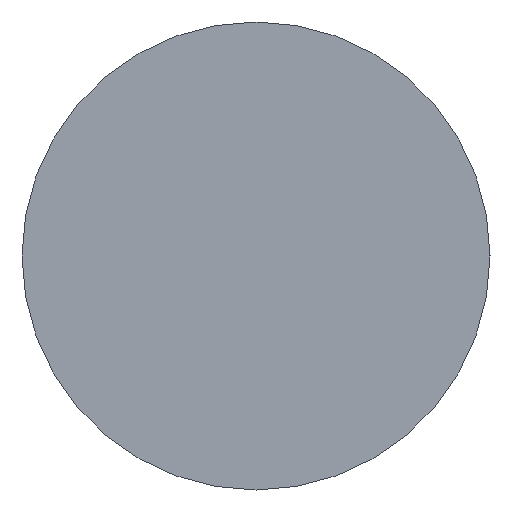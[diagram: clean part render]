
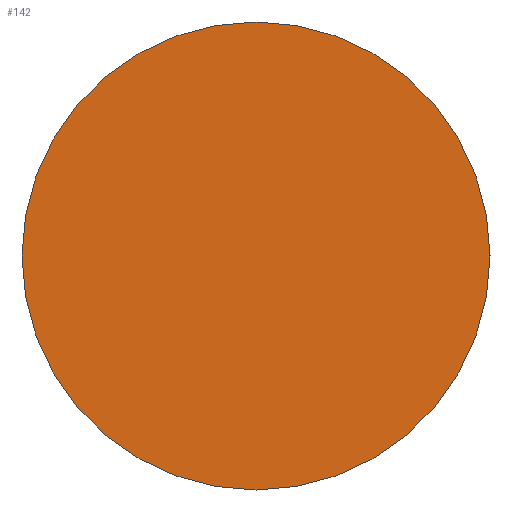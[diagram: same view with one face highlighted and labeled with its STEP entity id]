
A CAD part, left-side view. The second image highlights one B-rep face of the part: STEP entity #142.
In plain terms, the highlighted planar face has unit normal (-1, 0, 0).
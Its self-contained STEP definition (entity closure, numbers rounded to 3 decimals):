
#2 = EDGE_CURVE ( 'NONE', #179, #47, #100, .T. ) ;
#5 = ORIENTED_EDGE ( 'NONE', *, *, #186, .F. ) ;
#18 = CARTESIAN_POINT ( 'NONE',  ( 0., 0., 0. ) ) ;
#34 = EDGE_LOOP ( 'NONE', ( #268, #5 ) ) ;
#43 = CARTESIAN_POINT ( 'NONE',  ( 0., 0., 0. ) ) ;
#47 = VERTEX_POINT ( 'NONE', #152 ) ;
#54 = AXIS2_PLACEMENT_3D ( 'NONE', #116, #176, #180 ) ;
#67 = CIRCLE ( 'NONE', #54, 8. ) ;
#79 = PLANE ( 'NONE',  #156 ) ;
#98 = AXIS2_PLACEMENT_3D ( 'NONE', #43, #127, #232 ) ;
#100 = CIRCLE ( 'NONE', #98, 8. ) ;
#116 = CARTESIAN_POINT ( 'NONE',  ( 0., 0., 0. ) ) ;
#127 = DIRECTION ( 'NONE',  ( 1., 0., 0. ) ) ;
#141 = DIRECTION ( 'NONE',  ( -1., 0., 0. ) ) ;
#142 = ADVANCED_FACE ( 'NONE', ( #162 ), #79, .T. ) ;
#152 = CARTESIAN_POINT ( 'NONE',  ( 0., -8., 0. ) ) ;
#156 = AXIS2_PLACEMENT_3D ( 'NONE', #18, #141, #254 ) ;
#162 = FACE_OUTER_BOUND ( 'NONE', #34, .T. ) ;
#176 = DIRECTION ( 'NONE',  ( 1., 0., 0. ) ) ;
#179 = VERTEX_POINT ( 'NONE', #219 ) ;
#180 = DIRECTION ( 'NONE',  ( 0., 1., 0. ) ) ;
#186 = EDGE_CURVE ( 'NONE', #47, #179, #67, .T. ) ;
#219 = CARTESIAN_POINT ( 'NONE',  ( 0., 8., 0. ) ) ;
#232 = DIRECTION ( 'NONE',  ( 0., 1., 0. ) ) ;
#254 = DIRECTION ( 'NONE',  ( 0., -1., 0. ) ) ;
#268 = ORIENTED_EDGE ( 'NONE', *, *, #2, .F. ) ;
